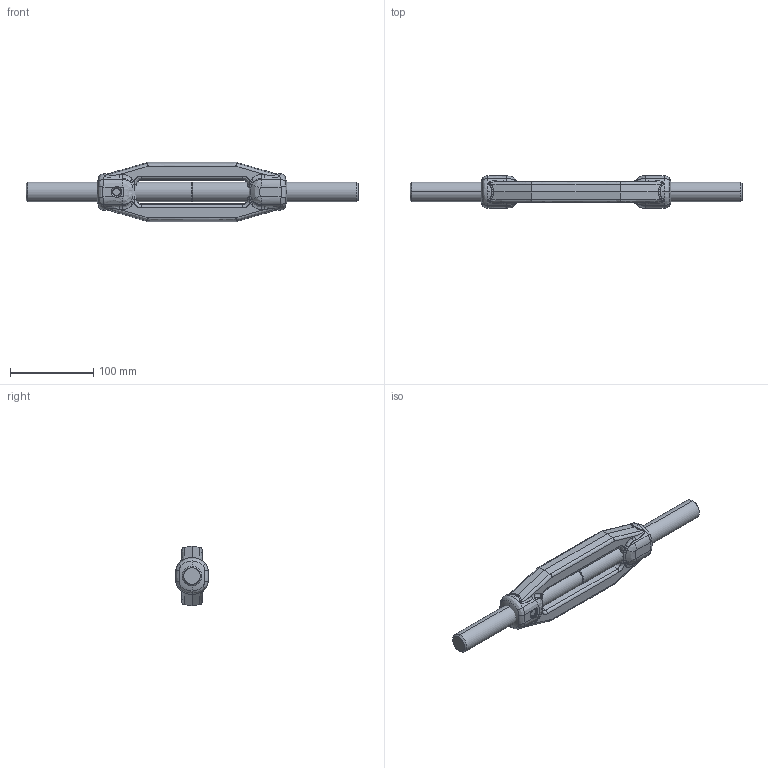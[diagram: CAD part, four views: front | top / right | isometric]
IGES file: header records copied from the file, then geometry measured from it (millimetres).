
Start section: SolidWorks IGES FILE using analytic representation for surfaces
Global section: file name: C:\Documents and Settings\Townley Workstation\Desktop\tooling\Townley products\Turn Buckles\TBG24\Model\Assembly drawings\TBSS24\TBSS24.IGS; native system: SolidWorks 2004 by SolidWorks Corporation; preprocessor: Version 5.3; author: Townley Workstation; date: 100105.150817; units: millimetre
Bounding box: 400 x 39 x 71.3 mm (x, y, z)
Surface area: 76086.4 mm2 (no closed solid volume)
Topology: 0 solids, 0 shells, 557 faces, 5442 edges, 5442 vertices
Faces by surface type: bspline 481, revolution 76
